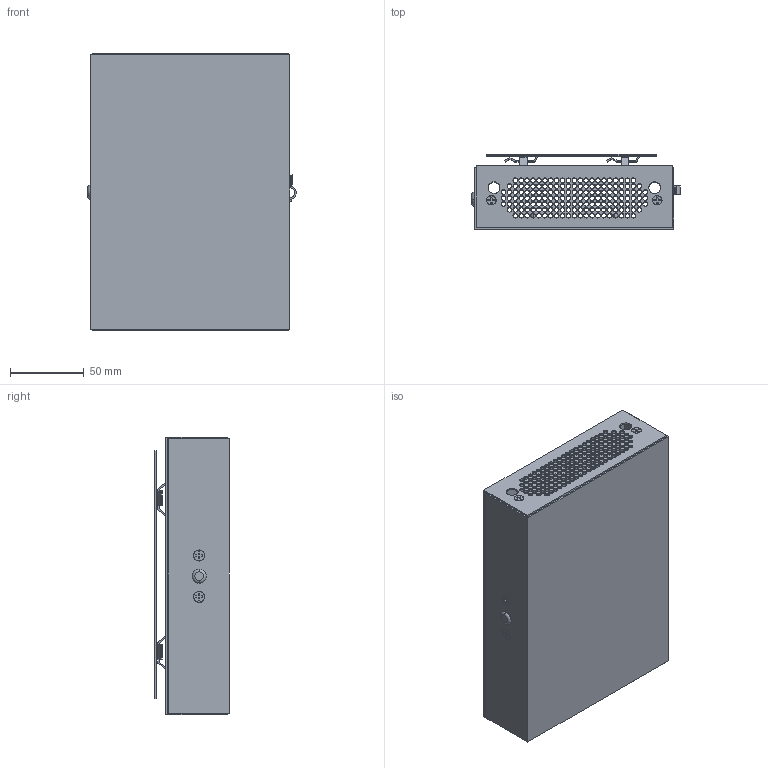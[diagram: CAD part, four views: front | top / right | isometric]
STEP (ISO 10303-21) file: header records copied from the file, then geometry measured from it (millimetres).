
FILE_DESCRIPTION (( 'STEP AP203' ), '1' );
FILE_NAME ('SMS-FLAT-3D drawing.STEP', '2020-10-21T14:36:35', ( 'scaryzero0@hotmail.com' ), ( '' ), 'SwSTEP 2.0', 'SolidWorks 2018', '' );
FILE_SCHEMA (( 'CONFIG_CONTROL_DESIGN' ));
Length unit declared in the file: millimetre
Products named in the file (8): ??209.stp; GB-FLAT00-11211.stp; GDB-FLAT01-12216.stp; SMS-FLAT-3D drawing; SMS-FLAT_stp.stp; SMS-FLAT_stp-1.stp; GDQ-FLAT00-12210.stp; SMS-FLAT-3D drawing.stp
Assembly tree (7 placements, depth 3):
  SMS-FLAT-3D drawing
    SMS-FLAT-3D drawing.stp
      GDB-FLAT01-12216.stp
      GB-FLAT00-11211.stp
      GDQ-FLAT00-12210.stp
      ??209.stp
      SMS-FLAT_stp.stp
      SMS-FLAT_stp-1.stp
Bounding box: 141.25 x 50.56 x 188 mm (x, y, z)
Volume: 100063 mm3; surface area: 203685.2 mm2
Topology: 23 solids, 23 shells, 1272 faces, 3580 edges, 2370 vertices
Faces by surface type: cylinder 746, plane 454, cone 66, bspline 4, torus 2
Entity records: 45172 total; most frequent: CARTESIAN_POINT 8362, DIRECTION 7744, ORIENTED_EDGE 7160, EDGE_CURVE 3580, AXIS2_PLACEMENT_3D 2920, VERTEX_POINT 2370, EDGE_LOOP 2068, LINE 1904
